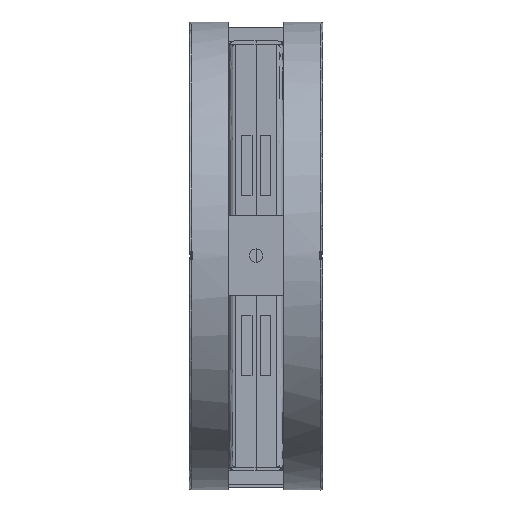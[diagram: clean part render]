
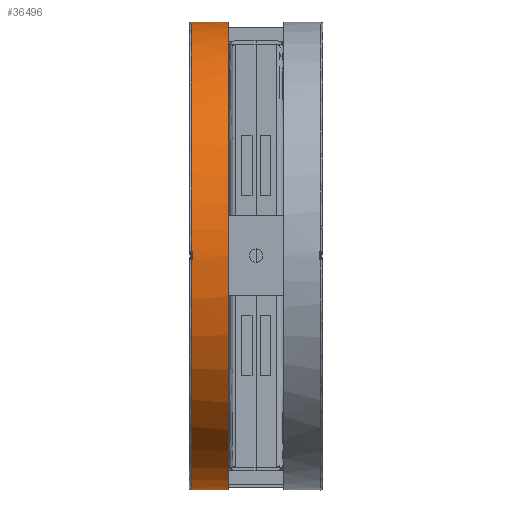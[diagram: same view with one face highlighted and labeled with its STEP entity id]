
A CAD part, top view. The second image highlights one B-rep face of the part: STEP entity #36496.
In plain terms, the highlighted free-form (B-spline) face has degree [2, 1] with [7, 2] control points.
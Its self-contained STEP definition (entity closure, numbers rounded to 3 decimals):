
#29469=CARTESIAN_POINT('V217',(-174.974,
   27.8,-3.));
#29470=VERTEX_POINT('V217',#29469);
#29482=CARTESIAN_POINT('V218',(174.974,
   27.8,-3.));
#29483=VERTEX_POINT('V218',#29482);
#29484=CARTESIAN_POINT('E352',(-174.974,
   27.8,-3.));
#29485=CARTESIAN_POINT('E352',(-172.025,
   27.8,-175.));
#29486=CARTESIAN_POINT('E352',(0.,27.8,
   -175.));
#29487=CARTESIAN_POINT('E352',(172.025,
   27.8,-175.));
#29488=CARTESIAN_POINT('E352',(174.974,
   27.8,-3.));
#29496=(BOUNDED_CURVE()B_SPLINE_CURVE(2,(#29484,#29485,#29486,
   #29487,#29488),.CIRCULAR_ARC.,.F.,.U.)B_SPLINE_CURVE_WITH_KNOTS(
   (3,2,3),(2.0,116.404,230.809),
   .UNSPECIFIED.)CURVE()GEOMETRIC_REPRESENTATION_ITEM()
   RATIONAL_B_SPLINE_CURVE((1.0,0.713,1.0,
   0.713,1.0))REPRESENTATION_ITEM('E352'));
#29497=EDGE_CURVE('E352',#29470,#29483,#29496,.T.);
#29561=CARTESIAN_POINT('V213',(174.974,
   27.8,3.));
#29562=VERTEX_POINT('V213',#29561);
#29574=CARTESIAN_POINT('V214',(-174.974,
   27.8,3.));
#29575=VERTEX_POINT('V214',#29574);
#29576=CARTESIAN_POINT('E342',(174.974,
   27.8,3.));
#29577=CARTESIAN_POINT('E342',(172.025,
   27.8,175.));
#29578=CARTESIAN_POINT('E342',(0.,27.8,
   175.));
#29579=CARTESIAN_POINT('E342',(-172.025,
   27.8,175.));
#29580=CARTESIAN_POINT('E342',(-174.974,
   27.8,3.));
#29588=(BOUNDED_CURVE()B_SPLINE_CURVE(2,(#29576,#29577,#29578,
   #29579,#29580),.CIRCULAR_ARC.,.F.,.U.)B_SPLINE_CURVE_WITH_KNOTS(
   (3,2,3),(2.0,116.404,230.809),
   .UNSPECIFIED.)CURVE()GEOMETRIC_REPRESENTATION_ITEM()
   RATIONAL_B_SPLINE_CURVE((1.0,0.713,1.0,
   0.713,1.0))REPRESENTATION_ITEM('E342'));
#29589=EDGE_CURVE('E342',#29562,#29575,#29588,.T.);
#33093=CARTESIAN_POINT('V209',(-175.0,0.,0.0));
#33094=VERTEX_POINT('V209',#33093);
#33095=CARTESIAN_POINT('E331',(-175.0,0.,0.0));
#33096=CARTESIAN_POINT('E331',(-175.0,0.,
   -303.109));
#33097=CARTESIAN_POINT('E331',(87.5,0.,
   -151.554));
#33098=CARTESIAN_POINT('E331',(350.,0.,
   0.));
#33099=CARTESIAN_POINT('E331',(87.5,0.,
   151.554));
#33100=CARTESIAN_POINT('E331',(-175.,0.,
   303.109));
#33101=CARTESIAN_POINT('E331',(-175.0,0.,0.0));
#33109=(BOUNDED_CURVE()B_SPLINE_CURVE(2,(#33095,#33096,#33097,
   #33098,#33099,#33100,#33101),.CIRCULAR_ARC.,.T.,.U.)
   B_SPLINE_CURVE_WITH_KNOTS((3,2,2,3),(0.0,0.333,
   0.667,1.0),.UNSPECIFIED.)CURVE()
   GEOMETRIC_REPRESENTATION_ITEM()RATIONAL_B_SPLINE_CURVE((1.0,
   0.5,1.0,0.5,1.0,0.5,1.0)
   )REPRESENTATION_ITEM('E331'));
#33110=EDGE_CURVE('E331',#33094,#33094,#33109,.T.);
#36214=CARTESIAN_POINT('V207',(-174.974,
   26.8,-3.));
#36215=VERTEX_POINT('V207',#36214);
#36221=CARTESIAN_POINT('E327',(-174.974,
   26.8,-3.));
#36222=CARTESIAN_POINT('E327',(-174.974,
   27.8,-3.));
#36223=B_SPLINE_CURVE_WITH_KNOTS('E327',1,(#36221,#36222),
   .POLYLINE_FORM.,.F.,.U.,(2,2),(0.0,0.4),
   .UNSPECIFIED.);
#36224=EDGE_CURVE('E327',#36215,#29470,#36223,.T.);
#36234=CARTESIAN_POINT('V204',(-174.974,
   26.8,3.));
#36235=VERTEX_POINT('V204',#36234);
#36236=CARTESIAN_POINT('V208',(-175.0,26.8,0.0));
#36237=VERTEX_POINT('V208',#36236);
#36238=CARTESIAN_POINT('E328',(-174.974,
   26.8,3.));
#36239=CARTESIAN_POINT('E328',(-175.,
   26.8,1.5));
#36240=CARTESIAN_POINT('E328',(-175.0,26.8,
   0.));
#36248=(BOUNDED_CURVE()B_SPLINE_CURVE(2,(#36238,#36239,#36240),
   .CIRCULAR_ARC.,.F.,.U.)B_SPLINE_CURVE_WITH_KNOTS((3,3),(0.0,
   0.5),.UNSPECIFIED.)CURVE()
   GEOMETRIC_REPRESENTATION_ITEM()RATIONAL_B_SPLINE_CURVE((1.0,
   1.,1.))REPRESENTATION_ITEM('E328')
   );
#36249=EDGE_CURVE('E328',#36235,#36237,#36248,.T.);
#36251=CARTESIAN_POINT('E329',(-175.0,26.8,
   0.));
#36252=CARTESIAN_POINT('E329',(-175.,
   26.8,-1.5));
#36253=CARTESIAN_POINT('E329',(-174.974,
   26.8,-3.));
#36261=(BOUNDED_CURVE()B_SPLINE_CURVE(2,(#36251,#36252,#36253),
   .CIRCULAR_ARC.,.F.,.U.)B_SPLINE_CURVE_WITH_KNOTS((3,3),(
   0.5,1.0),.UNSPECIFIED.)CURVE()
   GEOMETRIC_REPRESENTATION_ITEM()RATIONAL_B_SPLINE_CURVE((
   1.,1.,1.0))REPRESENTATION_ITEM(
   'E329'));
#36262=EDGE_CURVE('E329',#36237,#36215,#36261,.T.);
#36296=CARTESIAN_POINT('E321',(-174.974,
   27.8,3.));
#36297=CARTESIAN_POINT('E321',(-174.974,
   26.8,3.));
#36298=B_SPLINE_CURVE_WITH_KNOTS('E321',1,(#36296,#36297),
   .POLYLINE_FORM.,.F.,.U.,(2,2),(0.6,1.0),
   .UNSPECIFIED.);
#36299=EDGE_CURVE('E321',#29575,#36235,#36298,.T.);
#36423=CARTESIAN_POINT('V203',(174.974,
   26.8,3.));
#36424=VERTEX_POINT('V203',#36423);
#36430=CARTESIAN_POINT('E319',(174.974,
   26.8,3.));
#36431=CARTESIAN_POINT('E319',(174.974,
   27.8,3.));
#36432=B_SPLINE_CURVE_WITH_KNOTS('E319',1,(#36430,#36431),
   .POLYLINE_FORM.,.F.,.U.,(2,2),(0.0,0.4),
   .UNSPECIFIED.);
#36433=EDGE_CURVE('E319',#36424,#29562,#36432,.T.);
#36438=CARTESIAN_POINT('F158',(-175.0,29.3,0.0));
#36439=CARTESIAN_POINT('F158',(-175.0,29.3,
   -303.109));
#36440=CARTESIAN_POINT('F158',(87.5,29.3,
   -151.554));
#36441=CARTESIAN_POINT('F158',(350.,
   29.3,0.));
#36442=CARTESIAN_POINT('F158',(87.5,29.3,
   151.554));
#36443=CARTESIAN_POINT('F158',(-175.,
   29.3,303.109));
#36444=CARTESIAN_POINT('F158',(-175.0,29.3,0.0));
#36445=CARTESIAN_POINT('F158',(-175.0,0.,0.0));
#36446=CARTESIAN_POINT('F158',(-175.0,0.,
   -303.109));
#36447=CARTESIAN_POINT('F158',(87.5,0.,
   -151.554));
#36448=CARTESIAN_POINT('F158',(350.,0.,
   0.));
#36449=CARTESIAN_POINT('F158',(87.5,0.,
   151.554));
#36450=CARTESIAN_POINT('F158',(-175.,0.,
   303.109));
#36451=CARTESIAN_POINT('F158',(-175.0,0.,0.0));
#36459=(BOUNDED_SURFACE()B_SPLINE_SURFACE(2,1,((#36438,#36445),(
   #36439,#36446),(#36440,#36447),(#36441,#36448),(#36442,
   #36449),(#36443,#36450),(#36444,#36451)),.CYLINDRICAL_SURF.,
   .T.,.F.,.U.)B_SPLINE_SURFACE_WITH_KNOTS((3,2,2,3),(2,2),(0.0,
   20.69,41.38,62.07),(0.0,
   1.0),.UNSPECIFIED.)GEOMETRIC_REPRESENTATION_ITEM()
   RATIONAL_B_SPLINE_SURFACE(((1.0,1.0),(0.5,
   0.5),(1.0,1.0),(0.5,
   0.5),(1.0,1.0),(0.5,
   0.5),(1.0,1.0)))REPRESENTATION_ITEM('F158')
   SURFACE());
#36460=ORIENTED_EDGE('E352',*,*,#29497,.F.);
#36461=ORIENTED_EDGE('F156',*,*,#36224,.F.);
#36462=ORIENTED_EDGE('E329',*,*,#36262,.F.);
#36463=CARTESIAN_POINT('E330',(-175.0,0.,0.0));
#36464=CARTESIAN_POINT('E330',(-175.0,26.8,0.0));
#36465=B_SPLINE_CURVE_WITH_KNOTS('E330',1,(#36463,#36464),
   .POLYLINE_FORM.,.F.,.U.,(2,2),(0.0,0.915),
   .UNSPECIFIED.);
#36466=EDGE_CURVE('E330',#33094,#36237,#36465,.T.);
#36467=ORIENTED_EDGE('E330',*,*,#36466,.F.);
#36468=ORIENTED_EDGE('F160',*,*,#33110,.T.);
#36469=ORIENTED_EDGE('E330',*,*,#36466,.T.);
#36470=ORIENTED_EDGE('E328',*,*,#36249,.F.);
#36471=ORIENTED_EDGE('E321',*,*,#36299,.F.);
#36472=ORIENTED_EDGE('E342',*,*,#29589,.F.);
#36473=ORIENTED_EDGE('F152',*,*,#36433,.F.);
#36474=CARTESIAN_POINT('V200',(174.974,
   26.8,-3.));
#36475=VERTEX_POINT('V200',#36474);
#36476=CARTESIAN_POINT('E320',(174.974,
   26.8,-3.));
#36477=CARTESIAN_POINT('E320',(175.026,
   26.8,0.));
#36478=CARTESIAN_POINT('E320',(174.974,
   26.8,3.));
#36486=(BOUNDED_CURVE()B_SPLINE_CURVE(2,(#36476,#36477,#36478),
   .CIRCULAR_ARC.,.F.,.U.)CURVE()GEOMETRIC_REPRESENTATION_ITEM()
   QUASI_UNIFORM_CURVE()RATIONAL_B_SPLINE_CURVE((1.0,
   1.,1.0))REPRESENTATION_ITEM('E320'));
#36487=EDGE_CURVE('E320',#36475,#36424,#36486,.T.);
#36488=ORIENTED_EDGE('E320',*,*,#36487,.F.);
#36489=CARTESIAN_POINT('E313',(174.974,
   27.8,-3.));
#36490=CARTESIAN_POINT('E313',(174.974,
   26.8,-3.));
#36491=B_SPLINE_CURVE_WITH_KNOTS('E313',1,(#36489,#36490),
   .POLYLINE_FORM.,.F.,.U.,(2,2),(0.6,1.0),
   .UNSPECIFIED.);
#36492=EDGE_CURVE('E313',#29483,#36475,#36491,.T.);
#36493=ORIENTED_EDGE('E313',*,*,#36492,.F.);
#36494=EDGE_LOOP('F158',(#36460,#36461,#36462,#36467,#36468,#36469,
   #36470,#36471,#36472,#36473,#36488,#36493));
#36495=FACE_OUTER_BOUND('F158',#36494,.F.);
#36496=ADVANCED_FACE('F158',(#36495),#36459,.T.);
